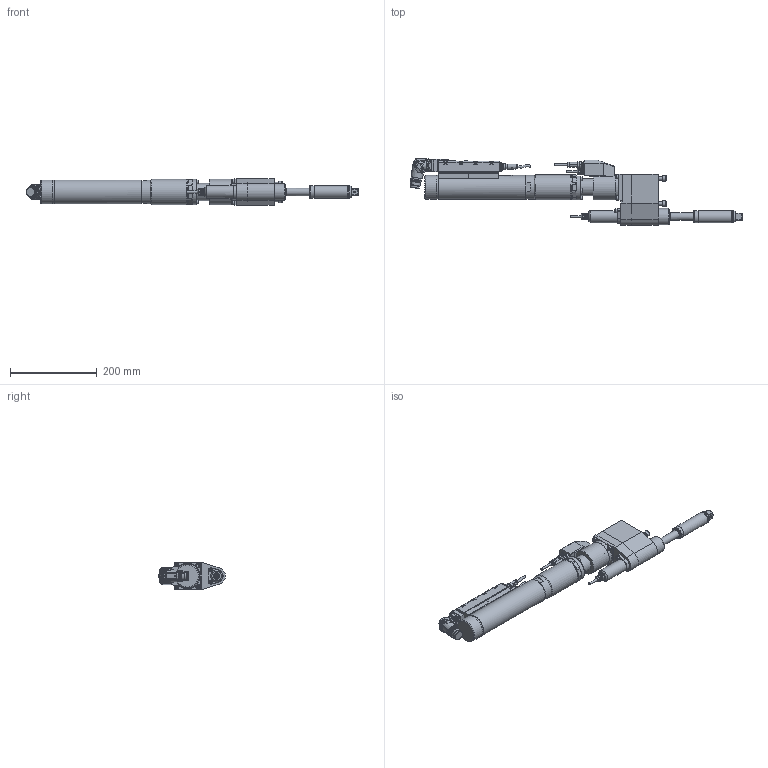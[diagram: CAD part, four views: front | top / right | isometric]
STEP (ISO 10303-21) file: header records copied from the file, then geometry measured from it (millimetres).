
FILE_DESCRIPTION (( 'STEP AP203' ), '1' );
FILE_NAME ('70082576_ESX222DRXWX270AODX250-220.STEP', '2026-03-12T11:58:49', ( '' ), ( '' ), 'SwSTEP 2.0', 'SolidWorks 2020', '' );
FILE_SCHEMA (( 'CONFIG_CONTROL_DESIGN' ));
Length unit declared in the file: millimetre
Products named in the file (11): 70082306_ESX222_Standard_Winkel_2; 70082293_2; 70057493_4; 70082383; 70082576_ESX222DRXWX270AODX250-220; 70057493_3; 7004768_3; 70210513; 70057493_Standard_winkel; 70082306; 70057493_2
Assembly tree (11 placements, depth 4):
  70082576_ESX222DRXWX270AODX250-220
    70082306_ESX222_Standard_Winkel_2
      70082306
      70057493_Standard_winkel
        70057493_2
        70057493_3
        70057493_4
      70082293_2  x2
    70210513
    70082383
    7004768_3
Bounding box: 765.06 x 153.46 x 60 mm (x, y, z)
Volume: 2126078.4 mm3; surface area: 245775.6 mm2
Topology: 13 solids, 14 shells, 2890 faces, 7502 edges, 4855 vertices
Faces by surface type: plane 1390, cylinder 770, cone 380, bspline 268, torus 77, sphere 5
Full cylindrical faces by diameter (mm): 0.5 x14, 0.57 x14, 1.6 x1, 2 x3, 3 x4, 4.2 x11, 4.5 x1, 4.9 x5, 5 x35, 5.5 x12, 6 x2, 7 x2, 8 x3, 8.459 x2, 8.5 x7, 9 x7, 10 x4, 11.08 x3, 12 x1, 12.3 x3, 13 x3, 14 x6, 14.5 x2, 16.84 x1, 17.3 x1, 17.4 x1, 17.5 x1, 20 x2, 21.15 x1, 21.5 x1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
Entity records: 95298 total; most frequent: CARTESIAN_POINT 31915, ORIENTED_EDGE 13326, DIRECTION 11720, EDGE_CURVE 6663, VERTEX_POINT 4501, AXIS2_PLACEMENT_3D 4353, EDGE_LOOP 3348, VECTOR 3014
